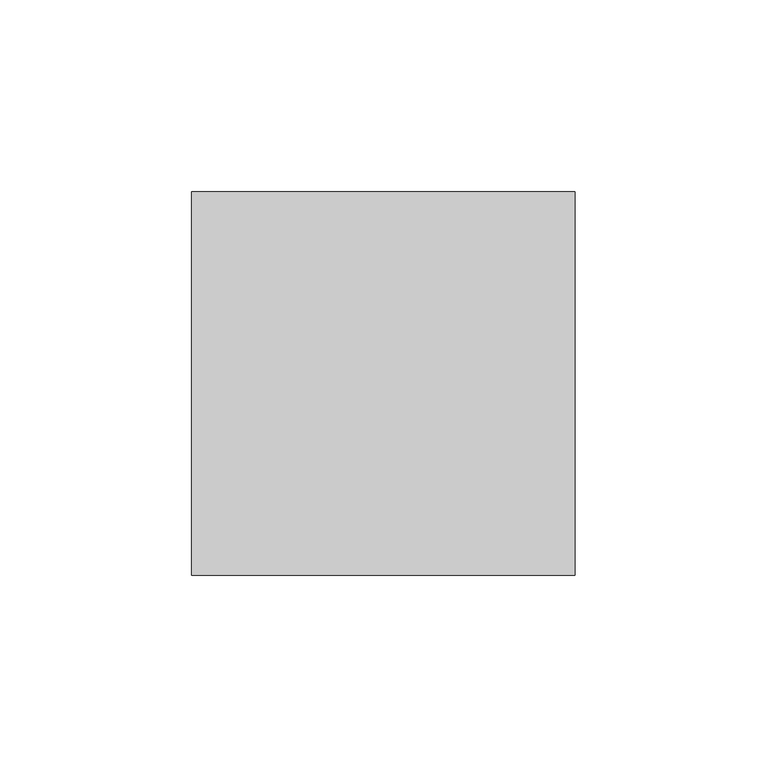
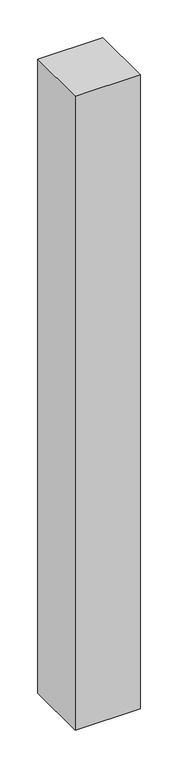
"""IFC4 building model written with IfcOpenShell, lengths in millimetres: proxy geometry, Брус : 100х100."""

from ifc_helpers import new_model, si_unit, origin, origin_with_axes, place, context, project, spatial, polyline, outline, extrude, source, transform, mapped, element, save


def generic_models_33dcb4cb(model_context):
    return source(origin(), model_context, "Body", "SweptSolid", [
        extrude(outline(polyline([(100.0, 0.0), (0.0, 0.0), (0.0, 100.0), (100.0, 100.0), (100.0, 0.0)])), origin_with_axes(), (0.0, 0.0, 1.0), 1030.0),
    ])


if __name__ == "__main__":
    model = new_model("IFC4")
    model_context = context("Model", 3, world=origin())
    ifc_project = project(units=[si_unit("LENGTHUNIT", "METRE", prefix="MILLI")], contexts=[model_context])
    site = spatial("IfcSite", under=ifc_project)
    building = spatial("IfcBuilding", under=site)
    placement = place(None, origin())
    generic_models_shape = generic_models_33dcb4cb(model_context)
    element("IfcBuildingElementProxy", 1, Name="Брус : 100х100", ObjectType="Брус : 100х100", at=placement, inside=building, context=model_context, shape_type="MappedRepresentation", body=[
        mapped(generic_models_shape, transform((0.0, 0.0, 0.0), x_axis=(1.0, 0.0, 0.0), y_axis=(0.0, 1.0, 0.0), z_axis=(0.0, 0.0, 1.0))),
    ])
    save(model, "model.ifc")
